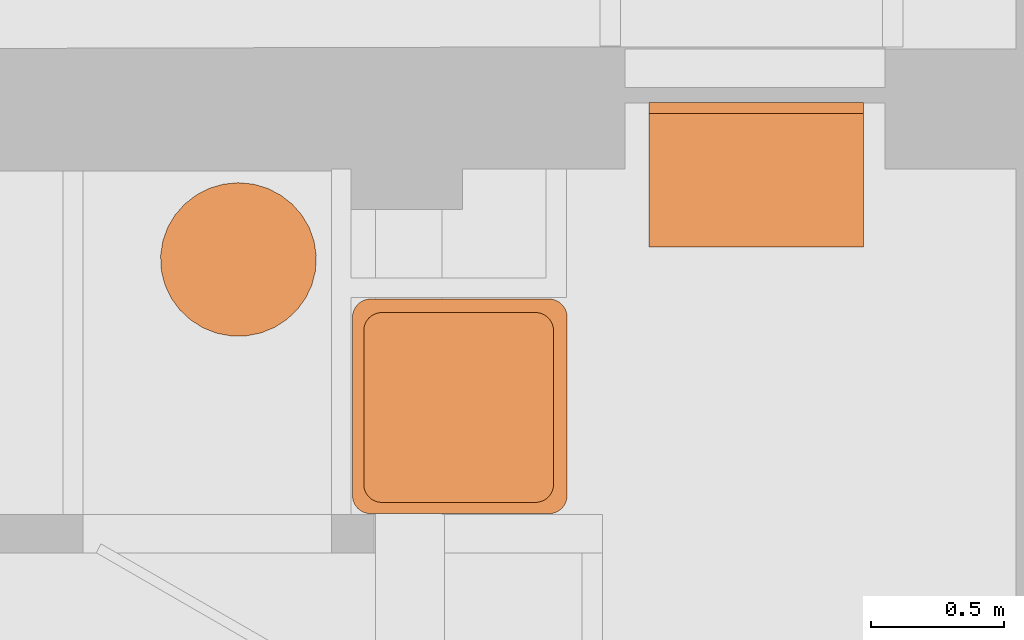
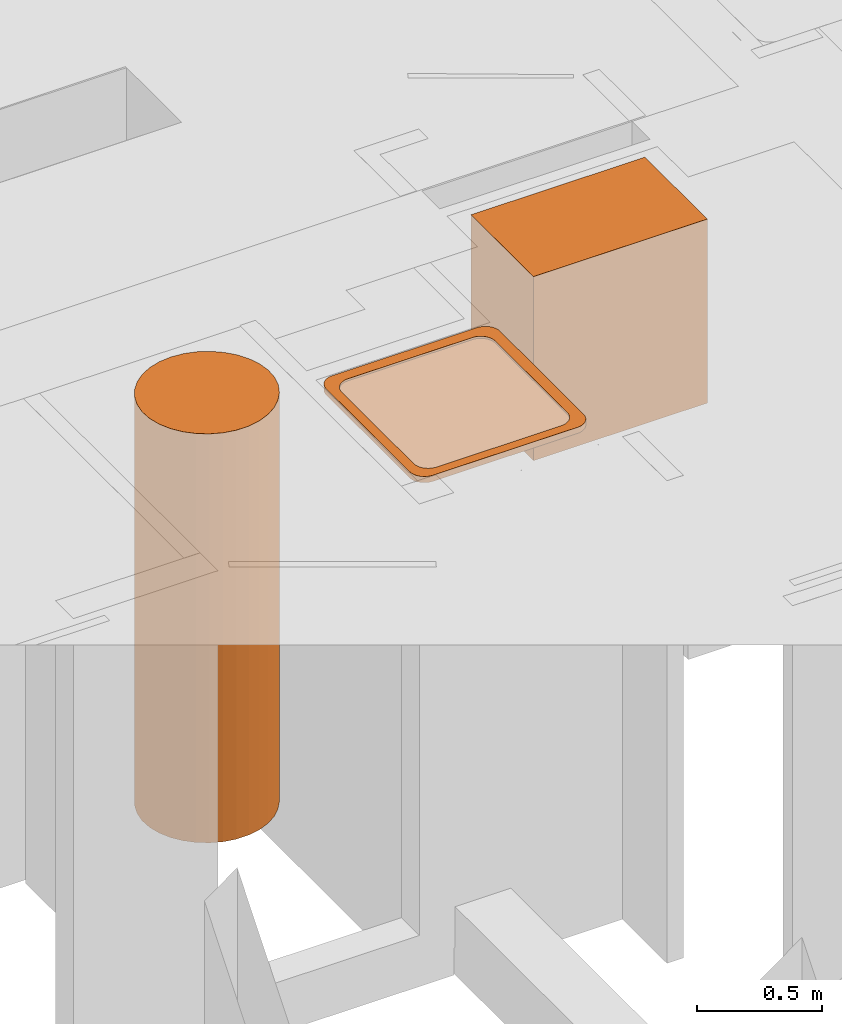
# Not in any storey, part 8 of 22: 3 proxies.
"""IFC4 model written with IfcOpenShell, lengths in metres."""

from ifc_helpers import new_model, si_unit, direction, origin_with_axes, place, context, subcontext, project, faceted_brep, element, save


model = new_model("IFC4")

# Units and contexts
model_context = context("Model", 3, precision=1e-05, world=origin_with_axes(), true_north=direction((1.0, 0.0)))
body_context = subcontext(model_context, "Body", "Model", "MODEL_VIEW")
ifc_project = project(units=[si_unit("LENGTHUNIT", "METRE"), si_unit("AREAUNIT", "SQUARE_METRE"), si_unit("VOLUMEUNIT", "CUBIC_METRE"), si_unit("MASSUNIT", "GRAM", prefix="KILO"), si_unit("TIMEUNIT", "SECOND"), si_unit("PLANEANGLEUNIT", "RADIAN"), si_unit("SOLIDANGLEUNIT", "STERADIAN")], contexts=[model_context])

# Proxies
placement = place(None, origin_with_axes())
element("IfcBuildingElementProxy", 1, at=placement, Name="ECS", PredefinedType="NOTDEFINED", context=body_context, shape_type="Brep", body=[
    faceted_brep([(145.156667, 20.298315, 2.31), (145.214271, 20.298315, 2.31), (145.269442, 20.30918, 2.31), (145.320448, 20.329867, 2.31), (145.366186, 20.359284, 2.31), (145.40555, 20.396341, 2.31), (145.437436, 20.43995, 2.31), (145.460739, 20.489019, 2.31), (145.474355, 20.542458, 2.31), (145.477185, 20.599023, 2.31), (145.468827, 20.654239, 2.31), (145.450229, 20.705629, 2.31), (145.422497, 20.752104, 2.31), (145.386734, 20.792574, 2.31), (145.344045, 20.825947, 2.31), (145.295535, 20.851135, 2.31), (145.242308, 20.867047, 2.31), (145.185469, 20.872593, 2.31), (145.12863, 20.867047, 2.31), (145.075403, 20.851135, 2.31), (145.026893, 20.825947, 2.31), (144.984204, 20.792574, 2.31), (144.948441, 20.752104, 2.31), (144.920708, 20.705629, 2.31), (144.902111, 20.654239, 2.31), (144.893752, 20.599023, 2.31), (144.896583, 20.542458, 2.31), (144.910199, 20.489019, 2.31), (144.933502, 20.43995, 2.31), (144.965388, 20.396341, 2.31), (145.004752, 20.359284, 2.31), (145.050489, 20.329867, 2.31), (145.101496, 20.30918, 2.31), (145.214271, 20.298315, 0.31), (145.156667, 20.298315, 0.31), (145.101496, 20.30918, 0.31), (145.050489, 20.329867, 0.31), (145.004752, 20.359284, 0.31), (144.965388, 20.396341, 0.31), (144.933502, 20.43995, 0.31), (144.910199, 20.489019, 0.31), (144.896583, 20.542458, 0.31), (144.893752, 20.599023, 0.31), (144.902111, 20.654239, 0.31), (144.920708, 20.705629, 0.31), (144.948441, 20.752104, 0.31), (144.984204, 20.792574, 0.31), (145.026893, 20.825947, 0.31), (145.075403, 20.851135, 0.31), (145.12863, 20.867047, 0.31), (145.185469, 20.872593, 0.31), (145.242308, 20.867047, 0.31), (145.295535, 20.851135, 0.31), (145.344045, 20.825947, 0.31), (145.386734, 20.792574, 0.31), (145.422497, 20.752104, 0.31), (145.450229, 20.705629, 0.31), (145.468827, 20.654239, 0.31), (145.477185, 20.599023, 0.31), (145.474355, 20.542458, 0.31), (145.460739, 20.489019, 0.31), (145.437436, 20.43995, 0.31), (145.40555, 20.396341, 0.31), (145.366186, 20.359284, 0.31), (145.320448, 20.329867, 0.31), (145.269442, 20.30918, 0.31)], [[[0, 1, 2, 3, 4, 5, 6, 7, 8, 9, 10, 11, 12, 13, 14, 15, 16, 17, 18, 19, 20, 21, 22, 23, 24, 25, 26, 27, 28, 29, 30, 31, 32]], [[33, 34, 35, 36, 37, 38, 39, 40, 41, 42, 43, 44, 45, 46, 47, 48, 49, 50, 51, 52, 53, 54, 55, 56, 57, 58, 59, 60, 61, 62, 63, 64, 65]], [[1, 0, 34, 33]], [[0, 32, 35, 34]], [[32, 31, 36, 35]], [[31, 30, 37, 36]], [[30, 29, 38, 37]], [[29, 28, 39, 38]], [[28, 27, 40, 39]], [[27, 26, 41, 40]], [[26, 25, 42, 41]], [[25, 24, 43, 42]], [[24, 23, 44, 43]], [[23, 22, 45, 44]], [[22, 21, 46, 45]], [[21, 20, 47, 46]], [[20, 19, 48, 47]], [[19, 18, 49, 48]], [[18, 17, 50, 49]], [[17, 16, 51, 50]], [[16, 15, 52, 51]], [[15, 14, 53, 52]], [[14, 13, 54, 53]], [[13, 12, 55, 54]], [[12, 11, 56, 55]], [[11, 10, 57, 56]], [[10, 9, 58, 57]], [[9, 8, 59, 58]], [[8, 7, 60, 59]], [[7, 6, 61, 60]], [[6, 5, 62, 61]], [[5, 4, 63, 62]], [[4, 3, 64, 63]], [[3, 2, 65, 64]], [[2, 1, 33, 65]]]),
])
element("IfcBuildingElementProxy", 2, at=placement, Name="Bloc Vasque", PredefinedType="NOTDEFINED", context=body_context, shape_type="AdvancedBrep", body=[
    faceted_brep([(147.527479, 21.131525, 1.41), (146.72321, 21.131525, 1.41), (146.72321, 21.148458, 1.41), (147.527479, 21.148458, 1.41), (146.72321, 21.173855, 1.41), (147.527479, 21.173855, 1.41), (146.72321, 21.148458, 1.39), (146.72321, 21.173855, 1.39), (147.527479, 21.173855, 1.39), (147.527479, 21.148458, 1.39), (146.72321, 21.131525, 2.31), (147.527479, 21.131525, 2.31), (147.527479, 20.632032, 2.31), (146.72321, 20.632032, 2.31), (147.527479, 20.632032, 1.41), (146.72321, 20.632032, 1.41), (146.875784, 20.88403, 1.41), (146.884305, 20.832256, 1.41), (146.909286, 20.78401, 1.41), (146.949026, 20.74258, 1.41), (147.000817, 20.71079, 1.41), (147.061128, 20.690806, 1.41), (147.072705, 20.689587, 1.41), (147.076418, 20.688538, 1.41), (147.12585, 20.68399, 1.41), (147.175281, 20.688538, 1.41), (147.178994, 20.689587, 1.41), (147.190572, 20.690806, 1.41), (147.250883, 20.71079, 1.41), (147.302673, 20.74258, 1.41), (147.342413, 20.78401, 1.41), (147.367395, 20.832255, 1.41), (147.375916, 20.88403, 1.41), (147.367395, 20.935804, 1.41), (147.342413, 20.98405, 1.41), (147.302673, 21.025479, 1.41), (147.250883, 21.05727, 1.41), (147.190572, 21.077254, 1.41), (147.12585, 21.08407, 1.41), (147.061128, 21.077254, 1.41), (147.000817, 21.05727, 1.41), (146.949027, 21.02548, 1.41), (146.909286, 20.98405, 1.41), (146.884305, 20.935804, 1.41), (147.340963, 20.790237, 1.41), (147.223052, 20.70203, 1.41), (147.26756, 20.724013, 1.41), (147.307308, 20.753748, 1.41), (147.028647, 20.70203, 1.41), (146.910736, 20.790238, 1.41), (146.944391, 20.753748, 1.41), (146.98414, 20.724013, 1.41), (147.375916, 20.88403, 1.536), (147.367395, 20.832255, 1.536), (147.340963, 20.790237, 1.536), (147.307308, 20.753748, 1.536), (147.26756, 20.724013, 1.536), (147.223052, 20.70203, 1.536), (147.178994, 20.689587, 1.536), (147.12585, 20.68399, 1.536), (147.072705, 20.689587, 1.536), (147.028647, 20.70203, 1.536), (146.98414, 20.724013, 1.536), (146.944391, 20.753748, 1.536), (146.910736, 20.790238, 1.536), (146.884305, 20.832256, 1.536), (146.875784, 20.88403, 1.536), (146.884305, 20.935804, 1.536), (146.909286, 20.98405, 1.536), (146.949027, 21.02548, 1.536), (147.000817, 21.05727, 1.536), (147.061128, 21.077254, 1.536), (147.12585, 21.08407, 1.536), (147.190572, 21.077254, 1.536), (147.250883, 21.05727, 1.536), (147.302673, 21.025479, 1.536), (147.342413, 20.98405, 1.536), (147.367395, 20.935804, 1.536)], [[[0, 1, 2, 3]], [[4, 2, 3, 5]], [[6, 7, 8, 9]], [[2, 4, 7, 6]], [[4, 5, 8, 7]], [[5, 3, 9, 8]], [[3, 2, 6, 9]], [[10, 11, 12, 13]], [[1, 0, 11, 10]], [[0, 14, 12, 11]], [[14, 15, 13, 12]], [[15, 1, 10, 13]], [[14, 15, 1, 0], [16, 17, 18, 19, 20, 21, 22, 23, 24, 25, 26, 27, 28, 29, 30, 31, 32, 33, 34, 35, 36, 37, 38, 39, 40, 41, 42, 43]], [[44, 31, 30, 29, 28, 27, 26, 45, 46, 47]], [[22, 24, 23]], [[24, 26, 25]], [[48, 22, 21, 20, 19, 18, 17, 49, 50, 51]], [[52, 53, 54, 55, 56, 57, 58, 59, 60, 61, 62, 63, 64, 65, 66, 67, 68, 69, 70, 71, 72, 73, 74, 75, 76, 77]], [[32, 31, 53, 52]], [[31, 44, 54, 53]], [[44, 47, 55, 54]], [[47, 46, 56, 55]], [[46, 45, 57, 56]], [[45, 26, 58, 57]], [[26, 24, 59, 58]], [[24, 22, 60, 59]], [[22, 48, 61, 60]], [[48, 51, 62, 61]], [[51, 50, 63, 62]], [[50, 49, 64, 63]], [[49, 17, 65, 64]], [[17, 16, 66, 65]], [[16, 43, 67, 66]], [[43, 42, 68, 67]], [[42, 41, 69, 68]], [[41, 40, 70, 69]], [[40, 39, 71, 70]], [[39, 38, 72, 71]], [[38, 37, 73, 72]], [[37, 36, 74, 73]], [[36, 35, 75, 74]], [[35, 34, 76, 75]], [[34, 33, 77, 76]], [[33, 32, 52, 77]]]),
])
element("IfcBuildingElementProxy", 3, at=placement, Name="Bloc Douche 2", PredefinedType="NOTDEFINED", context=body_context, shape_type="AdvancedBrep", body=[
    faceted_brep([(145.612798, 20.368867, 2.31), (145.612798, 19.700054, 2.31), (145.612961, 19.695629, 2.31), (145.613411, 19.691224, 2.31), (145.614147, 19.686858, 2.31), (145.615166, 19.682548, 2.31), (145.616463, 19.678314, 2.31), (145.618032, 19.674173, 2.31), (145.619867, 19.670144, 2.31), (145.621961, 19.666242, 2.31), (145.624304, 19.662484, 2.31), (145.626886, 19.658887, 2.31), (145.629697, 19.655466, 2.31), (145.632725, 19.652234, 2.31), (145.635956, 19.649207, 2.31), (145.639378, 19.646395, 2.31), (145.642975, 19.643813, 2.31), (145.646732, 19.64147, 2.31), (145.650634, 19.639376, 2.31), (145.654664, 19.637541, 2.31), (145.658805, 19.635971, 2.31), (145.663039, 19.634674, 2.31), (145.667348, 19.633656, 2.31), (145.671715, 19.63292, 2.31), (145.67612, 19.632469, 2.31), (145.680545, 19.632325, 2.31), (146.349358, 19.632325, 2.31), (146.353783, 19.632469, 2.31), (146.358189, 19.63292, 2.31), (146.362555, 19.633656, 2.31), (146.366864, 19.634675, 2.31), (146.371098, 19.635971, 2.31), (146.375239, 19.637541, 2.31), (146.379269, 19.639376, 2.31), (146.38317, 19.64147, 2.31), (146.386928, 19.643813, 2.31), (146.390525, 19.646396, 2.31), (146.393946, 19.649207, 2.31), (146.397178, 19.652234, 2.31), (146.400205, 19.655466, 2.31), (146.403016, 19.658887, 2.31), (146.405598, 19.662485, 2.31), (146.407941, 19.666242, 2.31), (146.410035, 19.670144, 2.31), (146.41187, 19.674174, 2.31), (146.41344, 19.678314, 2.31), (146.414736, 19.682548, 2.31), (146.415755, 19.686858, 2.31), (146.416491, 19.691224, 2.31), (146.416942, 19.695629, 2.31), (146.417105, 19.700054, 2.31), (146.417105, 20.368867, 2.31), (146.416942, 20.373292, 2.31), (146.416491, 20.377697, 2.31), (146.415755, 20.382064, 2.31), (146.414737, 20.386373, 2.31), (146.41344, 20.390607, 2.31), (146.411871, 20.394748, 2.31), (146.410035, 20.398778, 2.31), (146.407942, 20.402679, 2.31), (146.405599, 20.406437, 2.31), (146.403016, 20.410034, 2.31), (146.400205, 20.413456, 2.31), (146.397178, 20.416687, 2.31), (146.393947, 20.419715, 2.31), (146.390525, 20.422526, 2.31), (146.386928, 20.425108, 2.31), (146.383171, 20.427451, 2.31), (146.379269, 20.429545, 2.31), (146.375239, 20.431381, 2.31), (146.371098, 20.43295, 2.31), (146.366864, 20.434247, 2.31), (146.362555, 20.435266, 2.31), (146.358189, 20.436002, 2.31), (146.353783, 20.436452, 2.31), (146.349358, 20.436596, 2.31), (145.680545, 20.436615, 2.31), (145.67612, 20.436452, 2.31), (145.671715, 20.436002, 2.31), (145.667348, 20.435266, 2.31), (145.663039, 20.434247, 2.31), (145.658805, 20.43295, 2.31), (145.654664, 20.431381, 2.31), (145.650634, 20.429545, 2.31), (145.646732, 20.427452, 2.31), (145.642975, 20.425109, 2.31), (145.639378, 20.422526, 2.31), (145.635956, 20.419715, 2.31), (145.632725, 20.416687, 2.31), (145.629697, 20.413456, 2.31), (145.626886, 20.410034, 2.31), (145.624304, 20.406437, 2.31), (145.621961, 20.40268, 2.31), (145.619867, 20.398778, 2.31), (145.618032, 20.394748, 2.31), (145.616462, 20.390607, 2.31), (145.615166, 20.386373, 2.31), (145.614147, 20.382064, 2.31), (145.613411, 20.377697, 2.31), (145.612961, 20.373292, 2.31), (145.655147, 19.741864, 2.31), (145.655128, 19.742383, 2.31), (145.655147, 20.318071, 2.31), (145.655291, 20.322496, 2.31), (145.655741, 20.326901, 2.31), (145.656477, 20.331267, 2.31), (145.657496, 20.335577, 2.31), (145.658793, 20.339811, 2.31), (145.660362, 20.343952, 2.31), (145.662197, 20.347981, 2.31), (145.664291, 20.351883, 2.31), (145.666634, 20.355641, 2.31), (145.669216, 20.359238, 2.31), (145.672027, 20.36266, 2.31), (145.675055, 20.365891, 2.31), (145.678286, 20.368919, 2.31), (145.681707, 20.37173, 2.31), (145.685304, 20.374312, 2.31), (145.689062, 20.376655, 2.31), (145.692964, 20.378749, 2.31), (145.696994, 20.380585, 2.31), (145.701134, 20.382154, 2.31), (145.705368, 20.383451, 2.31), (145.709677, 20.384469, 2.31), (145.714044, 20.385206, 2.31), (145.718449, 20.385656, 2.31), (145.722874, 20.385819, 2.31), (146.298562, 20.3858, 2.31), (146.302987, 20.385656, 2.31), (146.307393, 20.385206, 2.31), (146.311759, 20.384469, 2.31), (146.316069, 20.383451, 2.31), (146.320303, 20.382154, 2.31), (146.324443, 20.380585, 2.31), (146.328473, 20.378749, 2.31), (146.332375, 20.376655, 2.31), (146.336132, 20.374312, 2.31), (146.339729, 20.37173, 2.31), (146.343151, 20.368919, 2.31), (146.346382, 20.365891, 2.31), (146.34941, 20.36266, 2.31), (146.352221, 20.359238, 2.31), (146.354803, 20.355641, 2.31), (146.357146, 20.351884, 2.31), (146.35924, 20.347982, 2.31), (146.361075, 20.343952, 2.31), (146.362645, 20.339811, 2.31), (146.363942, 20.335577, 2.31), (146.36496, 20.331268, 2.31), (146.365696, 20.326901, 2.31), (146.366147, 20.322496, 2.31), (146.36631, 20.318071, 2.31), (146.366291, 19.742383, 2.31), (146.366147, 19.737958, 2.31), (146.365696, 19.733553, 2.31), (146.36496, 19.729186, 2.31), (146.363941, 19.724877, 2.31), (146.362644, 19.720643, 2.31), (146.361075, 19.716502, 2.31), (146.359239, 19.712473, 2.31), (146.357146, 19.708571, 2.31), (146.354802, 19.704814, 2.31), (146.35222, 19.701217, 2.31), (146.349409, 19.697795, 2.31), (146.346381, 19.694564, 2.31), (146.34315, 19.691536, 2.31), (146.339729, 19.688725, 2.31), (146.336132, 19.686143, 2.31), (146.332374, 19.6838, 2.31), (146.328472, 19.681706, 2.31), (146.324443, 19.679871, 2.31), (146.320302, 19.678302, 2.31), (146.316068, 19.677005, 2.31), (146.311759, 19.675986, 2.31), (146.307392, 19.67525, 2.31), (146.302987, 19.674799, 2.31), (146.298562, 19.674655, 2.31), (145.722874, 19.674655, 2.31), (145.718449, 19.674799, 2.31), (145.714044, 19.67525, 2.31), (145.709678, 19.675986, 2.31), (145.705369, 19.677005, 2.31), (145.701135, 19.678302, 2.31), (145.696994, 19.679871, 2.31), (145.692964, 19.681706, 2.31), (145.689063, 19.6838, 2.31), (145.685305, 19.686143, 2.31), (145.681708, 19.688726, 2.31), (145.678287, 19.691536, 2.31), (145.675056, 19.694564, 2.31), (145.672028, 19.697795, 2.31), (145.669217, 19.701217, 2.31), (145.666635, 19.704814, 2.31), (145.664292, 19.708571, 2.31), (145.662198, 19.712473, 2.31), (145.660363, 19.716503, 2.31), (145.658793, 19.720643, 2.31), (145.657496, 19.724877, 2.31), (145.656478, 19.729186, 2.31), (145.655742, 19.733553, 2.31), (145.655291, 19.737958, 2.31), (145.612798, 19.700054, 2.28), (145.612798, 20.368867, 2.28), (145.612961, 20.373292, 2.28), (145.613411, 20.377697, 2.28), (145.614147, 20.382064, 2.28), (145.615166, 20.386373, 2.28), (145.616462, 20.390607, 2.28), (145.618032, 20.394748, 2.28), (145.619867, 20.398778, 2.28), (145.621961, 20.40268, 2.28), (145.624304, 20.406437, 2.28), (145.626886, 20.410034, 2.28), (145.629697, 20.413456, 2.28), (145.632725, 20.416687, 2.28), (145.635956, 20.419715, 2.28), (145.639378, 20.422526, 2.28), (145.642975, 20.425109, 2.28), (145.646732, 20.427452, 2.28), (145.650634, 20.429545, 2.28), (145.654664, 20.431381, 2.28), (145.658805, 20.43295, 2.28), (145.663039, 20.434247, 2.28), (145.667348, 20.435266, 2.28), (145.671715, 20.436002, 2.28), (145.67612, 20.436452, 2.28), (145.680545, 20.436615, 2.28), (146.349358, 20.436596, 2.28), (146.353783, 20.436452, 2.28), (146.358189, 20.436002, 2.28), (146.362555, 20.435266, 2.28), (146.366864, 20.434247, 2.28), (146.371098, 20.43295, 2.28), (146.375239, 20.431381, 2.28), (146.379269, 20.429545, 2.28), (146.383171, 20.427451, 2.28), (146.386928, 20.425108, 2.28), (146.390525, 20.422526, 2.28), (146.393947, 20.419715, 2.28), (146.397178, 20.416687, 2.28), (146.400205, 20.413456, 2.28), (146.403016, 20.410034, 2.28), (146.405599, 20.406437, 2.28), (146.407942, 20.402679, 2.28), (146.410035, 20.398778, 2.28), (146.411871, 20.394748, 2.28), (146.41344, 20.390607, 2.28), (146.414737, 20.386373, 2.28), (146.415755, 20.382064, 2.28), (146.416491, 20.377697, 2.28), (146.416942, 20.373292, 2.28), (146.417105, 20.368867, 2.28), (146.417105, 19.700054, 2.28), (146.416942, 19.695629, 2.28), (146.416491, 19.691224, 2.28), (146.415755, 19.686858, 2.28), (146.414736, 19.682548, 2.28), (146.41344, 19.678314, 2.28), (146.41187, 19.674174, 2.28), (146.410035, 19.670144, 2.28), (146.407941, 19.666242, 2.28), (146.405598, 19.662485, 2.28), (146.403016, 19.658887, 2.28), (146.400205, 19.655466, 2.28), (146.397178, 19.652234, 2.28), (146.393946, 19.649207, 2.28), (146.390525, 19.646396, 2.28), (146.386928, 19.643813, 2.28), (146.38317, 19.64147, 2.28), (146.379269, 19.639376, 2.28), (146.375239, 19.637541, 2.28), (146.371098, 19.635971, 2.28), (146.366864, 19.634675, 2.28), (146.362555, 19.633656, 2.28), (146.358189, 19.63292, 2.28), (146.353783, 19.632469, 2.28), (146.349358, 19.632325, 2.28), (145.680545, 19.632325, 2.28), (145.67612, 19.632469, 2.28), (145.671715, 19.63292, 2.28), (145.667348, 19.633656, 2.28), (145.663039, 19.634674, 2.28), (145.658805, 19.635971, 2.28), (145.654664, 19.637541, 2.28), (145.650634, 19.639376, 2.28), (145.646732, 19.64147, 2.28), (145.642975, 19.643813, 2.28), (145.639378, 19.646395, 2.28), (145.635956, 19.649207, 2.28), (145.632725, 19.652234, 2.28), (145.629697, 19.655466, 2.28), (145.626886, 19.658887, 2.28), (145.624304, 19.662484, 2.28), (145.621961, 19.666242, 2.28), (145.619867, 19.670144, 2.28), (145.618032, 19.674173, 2.28), (145.616463, 19.678314, 2.28), (145.615166, 19.682548, 2.28), (145.614147, 19.686858, 2.28), (145.613411, 19.691224, 2.28), (145.612961, 19.695629, 2.28), (145.655128, 19.742383, 2.28), (145.655147, 19.741864, 2.28), (145.655291, 19.737958, 2.28), (145.655742, 19.733553, 2.28), (145.656478, 19.729186, 2.28), (145.657496, 19.724877, 2.28), (145.658793, 19.720643, 2.28), (145.660363, 19.716503, 2.28), (145.662198, 19.712473, 2.28), (145.664292, 19.708571, 2.28), (145.666635, 19.704814, 2.28), (145.669217, 19.701217, 2.28), (145.672028, 19.697795, 2.28), (145.675056, 19.694564, 2.28), (145.678287, 19.691536, 2.28), (145.681708, 19.688726, 2.28), (145.685305, 19.686143, 2.28), (145.689063, 19.6838, 2.28), (145.692964, 19.681706, 2.28), (145.696994, 19.679871, 2.28), (145.701135, 19.678302, 2.28), (145.705369, 19.677005, 2.28), (145.709678, 19.675986, 2.28), (145.714044, 19.67525, 2.28), (145.718449, 19.674799, 2.28), (145.722874, 19.674655, 2.28), (146.298562, 19.674655, 2.28), (146.302987, 19.674799, 2.28), (146.307392, 19.67525, 2.28), (146.311759, 19.675986, 2.28), (146.316068, 19.677005, 2.28), (146.320302, 19.678302, 2.28), (146.324443, 19.679871, 2.28), (146.328472, 19.681706, 2.28), (146.332374, 19.6838, 2.28), (146.336132, 19.686143, 2.28), (146.339729, 19.688725, 2.28), (146.34315, 19.691536, 2.28), (146.346381, 19.694564, 2.28), (146.349409, 19.697795, 2.28), (146.35222, 19.701217, 2.28), (146.354802, 19.704814, 2.28), (146.357146, 19.708571, 2.28), (146.359239, 19.712473, 2.28), (146.361075, 19.716502, 2.28), (146.362644, 19.720643, 2.28), (146.363941, 19.724877, 2.28), (146.36496, 19.729186, 2.28), (146.365696, 19.733553, 2.28), (146.366147, 19.737958, 2.28), (146.366291, 19.742383, 2.28), (146.36631, 20.318071, 2.28), (146.366147, 20.322496, 2.28), (146.365696, 20.326901, 2.28), (146.36496, 20.331268, 2.28), (146.363942, 20.335577, 2.28), (146.362645, 20.339811, 2.28), (146.361075, 20.343952, 2.28), (146.35924, 20.347982, 2.28), (146.357146, 20.351884, 2.28), (146.354803, 20.355641, 2.28), (146.352221, 20.359238, 2.28), (146.34941, 20.36266, 2.28), (146.346382, 20.365891, 2.28), (146.343151, 20.368919, 2.28), (146.339729, 20.37173, 2.28), (146.336132, 20.374312, 2.28), (146.332375, 20.376655, 2.28), (146.328473, 20.378749, 2.28), (146.324443, 20.380585, 2.28), (146.320303, 20.382154, 2.28), (146.316069, 20.383451, 2.28), (146.311759, 20.384469, 2.28), (146.307393, 20.385206, 2.28), (146.302987, 20.385656, 2.28), (146.298562, 20.3858, 2.28), (145.722874, 20.385819, 2.28), (145.718449, 20.385656, 2.28), (145.714044, 20.385206, 2.28), (145.709677, 20.384469, 2.28), (145.705368, 20.383451, 2.28), (145.701134, 20.382154, 2.28), (145.696994, 20.380585, 2.28), (145.692964, 20.378749, 2.28), (145.689062, 20.376655, 2.28), (145.685304, 20.374312, 2.28), (145.681707, 20.37173, 2.28), (145.678286, 20.368919, 2.28), (145.675055, 20.365891, 2.28), (145.672027, 20.36266, 2.28), (145.669216, 20.359238, 2.28), (145.666634, 20.355641, 2.28), (145.664291, 20.351883, 2.28), (145.662197, 20.347981, 2.28), (145.660362, 20.343952, 2.28), (145.658793, 20.339811, 2.28), (145.657496, 20.335577, 2.28), (145.656477, 20.331267, 2.28), (145.655741, 20.326901, 2.28), (145.655291, 20.322496, 2.28), (145.655147, 20.318071, 2.28), (145.655128, 19.742383, 2.3), (145.655147, 19.741864, 2.3), (145.655291, 19.737958, 2.3), (145.655742, 19.733553, 2.3), (145.656478, 19.729186, 2.3), (145.657496, 19.724877, 2.3), (145.658793, 19.720643, 2.3), (145.660363, 19.716503, 2.3), (145.662198, 19.712473, 2.3), (145.664292, 19.708571, 2.3), (145.666635, 19.704814, 2.3), (145.669217, 19.701217, 2.3), (145.672028, 19.697795, 2.3), (145.675056, 19.694564, 2.3), (145.678287, 19.691536, 2.3), (145.681708, 19.688726, 2.3), (145.685305, 19.686143, 2.3), (145.689063, 19.6838, 2.3), (145.692964, 19.681706, 2.3), (145.696994, 19.679871, 2.3), (145.701135, 19.678302, 2.3), (145.705369, 19.677005, 2.3), (145.709678, 19.675986, 2.3), (145.714044, 19.67525, 2.3), (145.718449, 19.674799, 2.3), (145.722874, 19.674655, 2.3), (146.298562, 19.674655, 2.3), (146.302987, 19.674799, 2.3), (146.307392, 19.67525, 2.3), (146.311759, 19.675986, 2.3), (146.316068, 19.677005, 2.3), (146.320302, 19.678302, 2.3), (146.324443, 19.679871, 2.3), (146.328472, 19.681706, 2.3), (146.332374, 19.6838, 2.3), (146.336132, 19.686143, 2.3), (146.339729, 19.688725, 2.3), (146.34315, 19.691536, 2.3), (146.346381, 19.694564, 2.3), (146.349409, 19.697795, 2.3), (146.35222, 19.701217, 2.3), (146.354802, 19.704814, 2.3), (146.357146, 19.708571, 2.3), (146.359239, 19.712473, 2.3), (146.361075, 19.716502, 2.3), (146.362644, 19.720643, 2.3), (146.363941, 19.724877, 2.3), (146.36496, 19.729186, 2.3), (146.365696, 19.733553, 2.3), (146.366147, 19.737958, 2.3), (146.366291, 19.742383, 2.3), (146.36631, 20.318071, 2.3), (146.366147, 20.322496, 2.3), (146.365696, 20.326901, 2.3), (146.36496, 20.331268, 2.3), (146.363942, 20.335577, 2.3), (146.362645, 20.339811, 2.3), (146.361075, 20.343952, 2.3), (146.35924, 20.347982, 2.3), (146.357146, 20.351884, 2.3), (146.354803, 20.355641, 2.3), (146.352221, 20.359238, 2.3), (146.34941, 20.36266, 2.3), (146.346382, 20.365891, 2.3), (146.343151, 20.368919, 2.3), (146.339729, 20.37173, 2.3), (146.336132, 20.374312, 2.3), (146.332375, 20.376655, 2.3), (146.328473, 20.378749, 2.3), (146.324443, 20.380585, 2.3), (146.320303, 20.382154, 2.3), (146.316069, 20.383451, 2.3), (146.311759, 20.384469, 2.3), (146.307393, 20.385206, 2.3), (146.302987, 20.385656, 2.3), (146.298562, 20.3858, 2.3), (145.722874, 20.385819, 2.3), (145.718449, 20.385656, 2.3), (145.714044, 20.385206, 2.3), (145.709677, 20.384469, 2.3), (145.705368, 20.383451, 2.3), (145.701134, 20.382154, 2.3), (145.696994, 20.380585, 2.3), (145.692964, 20.378749, 2.3), (145.689062, 20.376655, 2.3), (145.685304, 20.374312, 2.3), (145.681707, 20.37173, 2.3), (145.678286, 20.368919, 2.3), (145.675055, 20.365891, 2.3), (145.672027, 20.36266, 2.3), (145.669216, 20.359238, 2.3), (145.666634, 20.355641, 2.3), (145.664291, 20.351883, 2.3), (145.662197, 20.347981, 2.3), (145.660362, 20.343952, 2.3), (145.658793, 20.339811, 2.3), (145.657496, 20.335577, 2.3), (145.656477, 20.331267, 2.3), (145.655741, 20.326901, 2.3), (145.655291, 20.322496, 2.3), (145.655147, 20.318071, 2.3)], [[[0, 1, 2, 3, 4, 5, 6, 7, 8, 9, 10, 11, 12, 13, 14, 15, 16, 17, 18, 19, 20, 21, 22, 23, 24, 25, 26, 27, 28, 29, 30, 31, 32, 33, 34, 35, 36, 37, 38, 39, 40, 41, 42, 43, 44, 45, 46, 47, 48, 49, 50, 51, 52, 53, 54, 55, 56, 57, 58, 59, 60, 61, 62, 63, 64, 65, 66, 67, 68, 69, 70, 71, 72, 73, 74, 75, 76, 77, 78, 79, 80, 81, 82, 83, 84, 85, 86, 87, 88, 89, 90, 91, 92, 93, 94, 95, 96, 97, 98, 99], [100, 101, 102, 103, 104, 105, 106, 107, 108, 109, 110, 111, 112, 113, 114, 115, 116, 117, 118, 119, 120, 121, 122, 123, 124, 125, 126, 127, 128, 129, 130, 131, 132, 133, 134, 135, 136, 137, 138, 139, 140, 141, 142, 143, 144, 145, 146, 147, 148, 149, 150, 151, 152, 153, 154, 155, 156, 157, 158, 159, 160, 161, 162, 163, 164, 165, 166, 167, 168, 169, 170, 171, 172, 173, 174, 175, 176, 177, 178, 179, 180, 181, 182, 183, 184, 185, 186, 187, 188, 189, 190, 191, 192, 193, 194, 195, 196, 197, 198, 199, 200]], [[201, 202, 203, 204, 205, 206, 207, 208, 209, 210, 211, 212, 213, 214, 215, 216, 217, 218, 219, 220, 221, 222, 223, 224, 225, 226, 227, 228, 229, 230, 231, 232, 233, 234, 235, 236, 237, 238, 239, 240, 241, 242, 243, 244, 245, 246, 247, 248, 249, 250, 251, 252, 253, 254, 255, 256, 257, 258, 259, 260, 261, 262, 263, 264, 265, 266, 267, 268, 269, 270, 271, 272, 273, 274, 275, 276, 277, 278, 279, 280, 281, 282, 283, 284, 285, 286, 287, 288, 289, 290, 291, 292, 293, 294, 295, 296, 297, 298, 299, 300], [301, 302, 303, 304, 305, 306, 307, 308, 309, 310, 311, 312, 313, 314, 315, 316, 317, 318, 319, 320, 321, 322, 323, 324, 325, 326, 327, 328, 329, 330, 331, 332, 333, 334, 335, 336, 337, 338, 339, 340, 341, 342, 343, 344, 345, 346, 347, 348, 349, 350, 351, 352, 353, 354, 355, 356, 357, 358, 359, 360, 361, 362, 363, 364, 365, 366, 367, 368, 369, 370, 371, 372, 373, 374, 375, 376, 377, 378, 379, 380, 381, 382, 383, 384, 385, 386, 387, 388, 389, 390, 391, 392, 393, 394, 395, 396, 397, 398, 399, 400, 401]], [[1, 0, 202, 201]], [[0, 99, 203, 202]], [[99, 98, 204, 203]], [[98, 97, 205, 204]], [[97, 96, 206, 205]], [[96, 95, 207, 206]], [[95, 94, 208, 207]], [[94, 93, 209, 208]], [[93, 92, 210, 209]], [[92, 91, 211, 210]], [[91, 90, 212, 211]], [[90, 89, 213, 212]], [[89, 88, 214, 213]], [[88, 87, 215, 214]], [[87, 86, 216, 215]], [[86, 85, 217, 216]], [[85, 84, 218, 217]], [[84, 83, 219, 218]], [[83, 82, 220, 219]], [[82, 81, 221, 220]], [[81, 80, 222, 221]], [[80, 79, 223, 222]], [[79, 78, 224, 223]], [[78, 77, 225, 224]], [[77, 76, 226, 225]], [[76, 75, 227, 226]], [[75, 74, 228, 227]], [[74, 73, 229, 228]], [[73, 72, 230, 229]], [[72, 71, 231, 230]], [[71, 70, 232, 231]], [[70, 69, 233, 232]], [[69, 68, 234, 233]], [[68, 67, 235, 234]], [[67, 66, 236, 235]], [[66, 65, 237, 236]], [[65, 64, 238, 237]], [[64, 63, 239, 238]], [[63, 62, 240, 239]], [[62, 61, 241, 240]], [[61, 60, 242, 241]], [[60, 59, 243, 242]], [[59, 58, 244, 243]], [[58, 57, 245, 244]], [[57, 56, 246, 245]], [[56, 55, 247, 246]], [[55, 54, 248, 247]], [[54, 53, 249, 248]], [[53, 52, 250, 249]], [[52, 51, 251, 250]], [[51, 50, 252, 251]], [[50, 49, 253, 252]], [[49, 48, 254, 253]], [[48, 47, 255, 254]], [[47, 46, 256, 255]], [[46, 45, 257, 256]], [[45, 44, 258, 257]], [[44, 43, 259, 258]], [[43, 42, 260, 259]], [[42, 41, 261, 260]], [[41, 40, 262, 261]], [[40, 39, 263, 262]], [[39, 38, 264, 263]], [[38, 37, 265, 264]], [[37, 36, 266, 265]], [[36, 35, 267, 266]], [[35, 34, 268, 267]], [[34, 33, 269, 268]], [[33, 32, 270, 269]], [[32, 31, 271, 270]], [[31, 30, 272, 271]], [[30, 29, 273, 272]], [[29, 28, 274, 273]], [[28, 27, 275, 274]], [[27, 26, 276, 275]], [[26, 25, 277, 276]], [[25, 24, 278, 277]], [[24, 23, 279, 278]], [[23, 22, 280, 279]], [[22, 21, 281, 280]], [[21, 20, 282, 281]], [[20, 19, 283, 282]], [[19, 18, 284, 283]], [[18, 17, 285, 284]], [[17, 16, 286, 285]], [[16, 15, 287, 286]], [[15, 14, 288, 287]], [[14, 13, 289, 288]], [[13, 12, 290, 289]], [[12, 11, 291, 290]], [[11, 10, 292, 291]], [[10, 9, 293, 292]], [[9, 8, 294, 293]], [[8, 7, 295, 294]], [[7, 6, 296, 295]], [[6, 5, 297, 296]], [[5, 4, 298, 297]], [[4, 3, 299, 298]], [[3, 2, 300, 299]], [[2, 1, 201, 300]], [[301, 402, 403, 302]], [[302, 403, 404, 303]], [[303, 404, 405, 304]], [[304, 405, 406, 305]], [[305, 406, 407, 306]], [[306, 407, 408, 307]], [[307, 408, 409, 308]], [[308, 409, 410, 309]], [[309, 410, 411, 310]], [[310, 411, 412, 311]], [[311, 412, 413, 312]], [[312, 413, 414, 313]], [[313, 414, 415, 314]], [[314, 415, 416, 315]], [[315, 416, 417, 316]], [[316, 417, 418, 317]], [[317, 418, 419, 318]], [[318, 419, 420, 319]], [[319, 420, 421, 320]], [[320, 421, 422, 321]], [[321, 422, 423, 322]], [[322, 423, 424, 323]], [[323, 424, 425, 324]], [[324, 425, 426, 325]], [[325, 426, 427, 326]], [[326, 427, 428, 327]], [[327, 428, 429, 328]], [[328, 429, 430, 329]], [[329, 430, 431, 330]], [[330, 431, 432, 331]], [[331, 432, 433, 332]], [[332, 433, 434, 333]], [[333, 434, 435, 334]], [[334, 435, 436, 335]], [[335, 436, 437, 336]], [[336, 437, 438, 337]], [[337, 438, 439, 338]], [[338, 439, 440, 339]], [[339, 440, 441, 340]], [[340, 441, 442, 341]], [[341, 442, 443, 342]], [[342, 443, 444, 343]], [[343, 444, 445, 344]], [[344, 445, 446, 345]], [[345, 446, 447, 346]], [[346, 447, 448, 347]], [[347, 448, 449, 348]], [[348, 449, 450, 349]], [[349, 450, 451, 350]], [[350, 451, 452, 351]], [[351, 452, 453, 352]], [[352, 453, 454, 353]], [[353, 454, 455, 354]], [[354, 455, 456, 355]], [[355, 456, 457, 356]], [[356, 457, 458, 357]], [[357, 458, 459, 358]], [[358, 459, 460, 359]], [[359, 460, 461, 360]], [[360, 461, 462, 361]], [[361, 462, 463, 362]], [[362, 463, 464, 363]], [[363, 464, 465, 364]], [[364, 465, 466, 365]], [[365, 466, 467, 366]], [[366, 467, 468, 367]], [[367, 468, 469, 368]], [[368, 469, 470, 369]], [[369, 470, 471, 370]], [[370, 471, 472, 371]], [[371, 472, 473, 372]], [[372, 473, 474, 373]], [[373, 474, 475, 374]], [[374, 475, 476, 375]], [[375, 476, 477, 376]], [[376, 477, 478, 377]], [[377, 478, 479, 378]], [[378, 479, 480, 379]], [[379, 480, 481, 380]], [[380, 481, 482, 381]], [[381, 482, 483, 382]], [[382, 483, 484, 383]], [[383, 484, 485, 384]], [[384, 485, 486, 385]], [[385, 486, 487, 386]], [[386, 487, 488, 387]], [[387, 488, 489, 388]], [[388, 489, 490, 389]], [[389, 490, 491, 390]], [[390, 491, 492, 391]], [[391, 492, 493, 392]], [[392, 493, 494, 393]], [[393, 494, 495, 394]], [[394, 495, 496, 395]], [[395, 496, 497, 396]], [[396, 497, 498, 397]], [[397, 498, 499, 398]], [[398, 499, 500, 399]], [[399, 500, 501, 400]], [[400, 501, 502, 401]], [[401, 502, 402, 301]], [[403, 402, 502, 501, 500, 499, 498, 497, 496, 495, 494, 493, 492, 491, 490, 489, 488, 487, 486, 485, 484, 483, 482, 481, 480, 479, 478, 477, 476, 475, 474, 473, 472, 471, 470, 469, 468, 467, 466, 465, 464, 463, 462, 461, 460, 459, 458, 457, 456, 455, 454, 453, 452, 451, 450, 449, 448, 447, 446, 445, 444, 443, 442, 441, 440, 439, 438, 437, 436, 435, 434, 433, 432, 431, 430, 429, 428, 427, 426, 425, 424, 423, 422, 421, 420, 419, 418, 417, 416, 415, 414, 413, 412, 411, 410, 409, 408, 407, 406, 405, 404]], [[101, 100, 403, 402]], [[102, 101, 402, 502]], [[103, 102, 502, 501]], [[104, 103, 501, 500]], [[105, 104, 500, 499]], [[106, 105, 499, 498]], [[107, 106, 498, 497]], [[108, 107, 497, 496]], [[109, 108, 496, 495]], [[110, 109, 495, 494]], [[111, 110, 494, 493]], [[112, 111, 493, 492]], [[113, 112, 492, 491]], [[114, 113, 491, 490]], [[115, 114, 490, 489]], [[116, 115, 489, 488]], [[117, 116, 488, 487]], [[118, 117, 487, 486]], [[119, 118, 486, 485]], [[120, 119, 485, 484]], [[121, 120, 484, 483]], [[122, 121, 483, 482]], [[123, 122, 482, 481]], [[124, 123, 481, 480]], [[125, 124, 480, 479]], [[126, 125, 479, 478]], [[127, 126, 478, 477]], [[128, 127, 477, 476]], [[129, 128, 476, 475]], [[130, 129, 475, 474]], [[131, 130, 474, 473]], [[132, 131, 473, 472]], [[133, 132, 472, 471]], [[134, 133, 471, 470]], [[135, 134, 470, 469]], [[136, 135, 469, 468]], [[137, 136, 468, 467]], [[138, 137, 467, 466]], [[139, 138, 466, 465]], [[140, 139, 465, 464]], [[141, 140, 464, 463]], [[142, 141, 463, 462]], [[143, 142, 462, 461]], [[144, 143, 461, 460]], [[145, 144, 460, 459]], [[146, 145, 459, 458]], [[147, 146, 458, 457]], [[148, 147, 457, 456]], [[149, 148, 456, 455]], [[150, 149, 455, 454]], [[151, 150, 454, 453]], [[152, 151, 453, 452]], [[153, 152, 452, 451]], [[154, 153, 451, 450]], [[155, 154, 450, 449]], [[156, 155, 449, 448]], [[157, 156, 448, 447]], [[158, 157, 447, 446]], [[159, 158, 446, 445]], [[160, 159, 445, 444]], [[161, 160, 444, 443]], [[162, 161, 443, 442]], [[163, 162, 442, 441]], [[164, 163, 441, 440]], [[165, 164, 440, 439]], [[166, 165, 439, 438]], [[167, 166, 438, 437]], [[168, 167, 437, 436]], [[169, 168, 436, 435]], [[170, 169, 435, 434]], [[171, 170, 434, 433]], [[172, 171, 433, 432]], [[173, 172, 432, 431]], [[174, 173, 431, 430]], [[175, 174, 430, 429]], [[176, 175, 429, 428]], [[177, 176, 428, 427]], [[178, 177, 427, 426]], [[179, 178, 426, 425]], [[180, 179, 425, 424]], [[181, 180, 424, 423]], [[182, 181, 423, 422]], [[183, 182, 422, 421]], [[184, 183, 421, 420]], [[185, 184, 420, 419]], [[186, 185, 419, 418]], [[187, 186, 418, 417]], [[188, 187, 417, 416]], [[189, 188, 416, 415]], [[190, 189, 415, 414]], [[191, 190, 414, 413]], [[192, 191, 413, 412]], [[193, 192, 412, 411]], [[194, 193, 411, 410]], [[195, 194, 410, 409]], [[196, 195, 409, 408]], [[197, 196, 408, 407]], [[198, 197, 407, 406]], [[199, 198, 406, 405]], [[200, 199, 405, 404]], [[100, 200, 404, 403]]]),
])

save(model, "model.ifc")
